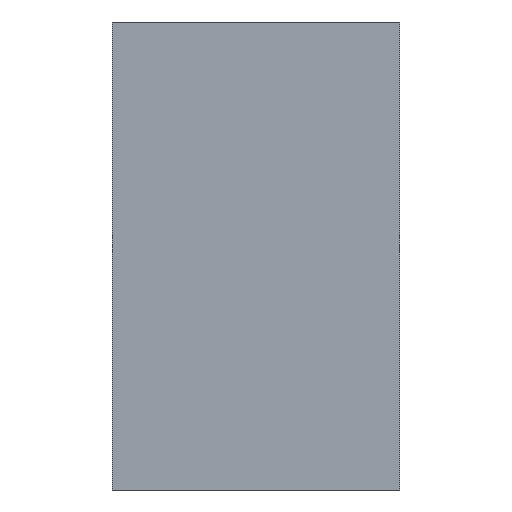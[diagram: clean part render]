
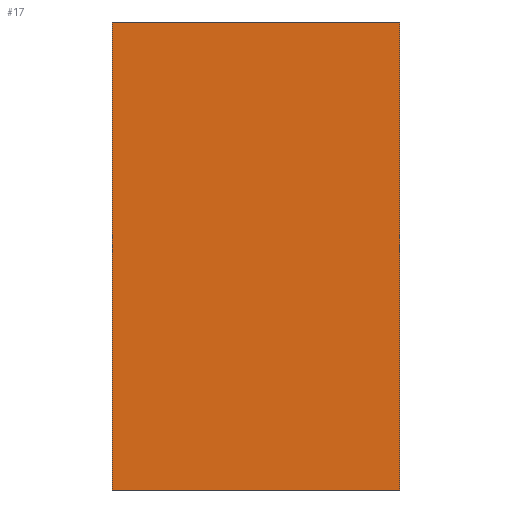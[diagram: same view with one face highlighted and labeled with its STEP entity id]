
A CAD part, left-side view. The second image highlights one B-rep face of the part: STEP entity #17.
In plain terms, the highlighted planar face has unit normal (-1, 0, 0).
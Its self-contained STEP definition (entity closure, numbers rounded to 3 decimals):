
#17 = ADVANCED_FACE('',(#18),#32,.F.);
#18 = FACE_BOUND('',#19,.F.);
#19 = EDGE_LOOP('',(#20,#55,#83,#111));
#20 = ORIENTED_EDGE('',*,*,#21,.F.);
#21 = EDGE_CURVE('',#22,#24,#26,.T.);
#22 = VERTEX_POINT('',#23);
#23 = CARTESIAN_POINT('',(-104.,-23.,-215.5));
#24 = VERTEX_POINT('',#25);
#25 = CARTESIAN_POINT('',(-104.,-23.,-140.5));
#26 = SURFACE_CURVE('',#27,(#31,#43),.PCURVE_S1.);
#27 = LINE('',#28,#29);
#28 = CARTESIAN_POINT('',(-104.,-23.,-215.5));
#29 = VECTOR('',#30,1.);
#30 = DIRECTION('',(0.,0.,1.));
#31 = PCURVE('',#32,#37);
#32 = PLANE('',#33);
#33 = AXIS2_PLACEMENT_3D('',#34,#35,#36);
#34 = CARTESIAN_POINT('',(-104.,-23.,-215.5));
#35 = DIRECTION('',(1.,0.,0.));
#36 = DIRECTION('',(0.,0.,1.));
#37 = DEFINITIONAL_REPRESENTATION('',(#38),#42);
#38 = LINE('',#39,#40);
#39 = CARTESIAN_POINT('',(0.,0.));
#40 = VECTOR('',#41,1.);
#41 = DIRECTION('',(1.,0.));
#42 = ( GEOMETRIC_REPRESENTATION_CONTEXT(2) 
PARAMETRIC_REPRESENTATION_CONTEXT() REPRESENTATION_CONTEXT('2D SPACE',''
  ) );
#43 = PCURVE('',#44,#49);
#44 = PLANE('',#45);
#45 = AXIS2_PLACEMENT_3D('',#46,#47,#48);
#46 = CARTESIAN_POINT('',(-104.,-23.,-215.5));
#47 = DIRECTION('',(0.,1.,0.));
#48 = DIRECTION('',(0.,0.,1.));
#49 = DEFINITIONAL_REPRESENTATION('',(#50),#54);
#50 = LINE('',#51,#52);
#51 = CARTESIAN_POINT('',(0.,0.));
#52 = VECTOR('',#53,1.);
#53 = DIRECTION('',(1.,0.));
#54 = ( GEOMETRIC_REPRESENTATION_CONTEXT(2) 
PARAMETRIC_REPRESENTATION_CONTEXT() REPRESENTATION_CONTEXT('2D SPACE',''
  ) );
#55 = ORIENTED_EDGE('',*,*,#56,.T.);
#56 = EDGE_CURVE('',#22,#57,#59,.T.);
#57 = VERTEX_POINT('',#58);
#58 = CARTESIAN_POINT('',(-104.,23.,-215.5));
#59 = SURFACE_CURVE('',#60,(#64,#71),.PCURVE_S1.);
#60 = LINE('',#61,#62);
#61 = CARTESIAN_POINT('',(-104.,-23.,-215.5));
#62 = VECTOR('',#63,1.);
#63 = DIRECTION('',(0.,1.,0.));
#64 = PCURVE('',#32,#65);
#65 = DEFINITIONAL_REPRESENTATION('',(#66),#70);
#66 = LINE('',#67,#68);
#67 = CARTESIAN_POINT('',(0.,0.));
#68 = VECTOR('',#69,1.);
#69 = DIRECTION('',(0.,-1.));
#70 = ( GEOMETRIC_REPRESENTATION_CONTEXT(2) 
PARAMETRIC_REPRESENTATION_CONTEXT() REPRESENTATION_CONTEXT('2D SPACE',''
  ) );
#71 = PCURVE('',#72,#77);
#72 = PLANE('',#73);
#73 = AXIS2_PLACEMENT_3D('',#74,#75,#76);
#74 = CARTESIAN_POINT('',(-104.,-23.,-215.5));
#75 = DIRECTION('',(0.,0.,1.));
#76 = DIRECTION('',(1.,0.,0.));
#77 = DEFINITIONAL_REPRESENTATION('',(#78),#82);
#78 = LINE('',#79,#80);
#79 = CARTESIAN_POINT('',(0.,0.));
#80 = VECTOR('',#81,1.);
#81 = DIRECTION('',(0.,1.));
#82 = ( GEOMETRIC_REPRESENTATION_CONTEXT(2) 
PARAMETRIC_REPRESENTATION_CONTEXT() REPRESENTATION_CONTEXT('2D SPACE',''
  ) );
#83 = ORIENTED_EDGE('',*,*,#84,.T.);
#84 = EDGE_CURVE('',#57,#85,#87,.T.);
#85 = VERTEX_POINT('',#86);
#86 = CARTESIAN_POINT('',(-104.,23.,-140.5));
#87 = SURFACE_CURVE('',#88,(#92,#99),.PCURVE_S1.);
#88 = LINE('',#89,#90);
#89 = CARTESIAN_POINT('',(-104.,23.,-215.5));
#90 = VECTOR('',#91,1.);
#91 = DIRECTION('',(0.,0.,1.));
#92 = PCURVE('',#32,#93);
#93 = DEFINITIONAL_REPRESENTATION('',(#94),#98);
#94 = LINE('',#95,#96);
#95 = CARTESIAN_POINT('',(0.,-46.));
#96 = VECTOR('',#97,1.);
#97 = DIRECTION('',(1.,0.));
#98 = ( GEOMETRIC_REPRESENTATION_CONTEXT(2) 
PARAMETRIC_REPRESENTATION_CONTEXT() REPRESENTATION_CONTEXT('2D SPACE',''
  ) );
#99 = PCURVE('',#100,#105);
#100 = PLANE('',#101);
#101 = AXIS2_PLACEMENT_3D('',#102,#103,#104);
#102 = CARTESIAN_POINT('',(-104.,23.,-215.5));
#103 = DIRECTION('',(0.,1.,0.));
#104 = DIRECTION('',(0.,0.,1.));
#105 = DEFINITIONAL_REPRESENTATION('',(#106),#110);
#106 = LINE('',#107,#108);
#107 = CARTESIAN_POINT('',(0.,0.));
#108 = VECTOR('',#109,1.);
#109 = DIRECTION('',(1.,0.));
#110 = ( GEOMETRIC_REPRESENTATION_CONTEXT(2) 
PARAMETRIC_REPRESENTATION_CONTEXT() REPRESENTATION_CONTEXT('2D SPACE',''
  ) );
#111 = ORIENTED_EDGE('',*,*,#112,.F.);
#112 = EDGE_CURVE('',#24,#85,#113,.T.);
#113 = SURFACE_CURVE('',#114,(#118,#125),.PCURVE_S1.);
#114 = LINE('',#115,#116);
#115 = CARTESIAN_POINT('',(-104.,-23.,-140.5));
#116 = VECTOR('',#117,1.);
#117 = DIRECTION('',(0.,1.,0.));
#118 = PCURVE('',#32,#119);
#119 = DEFINITIONAL_REPRESENTATION('',(#120),#124);
#120 = LINE('',#121,#122);
#121 = CARTESIAN_POINT('',(75.,0.));
#122 = VECTOR('',#123,1.);
#123 = DIRECTION('',(0.,-1.));
#124 = ( GEOMETRIC_REPRESENTATION_CONTEXT(2) 
PARAMETRIC_REPRESENTATION_CONTEXT() REPRESENTATION_CONTEXT('2D SPACE',''
  ) );
#125 = PCURVE('',#126,#131);
#126 = PLANE('',#127);
#127 = AXIS2_PLACEMENT_3D('',#128,#129,#130);
#128 = CARTESIAN_POINT('',(-104.,-23.,-140.5));
#129 = DIRECTION('',(0.,0.,1.));
#130 = DIRECTION('',(1.,0.,0.));
#131 = DEFINITIONAL_REPRESENTATION('',(#132),#136);
#132 = LINE('',#133,#134);
#133 = CARTESIAN_POINT('',(0.,0.));
#134 = VECTOR('',#135,1.);
#135 = DIRECTION('',(0.,1.));
#136 = ( GEOMETRIC_REPRESENTATION_CONTEXT(2) 
PARAMETRIC_REPRESENTATION_CONTEXT() REPRESENTATION_CONTEXT('2D SPACE',''
  ) );
